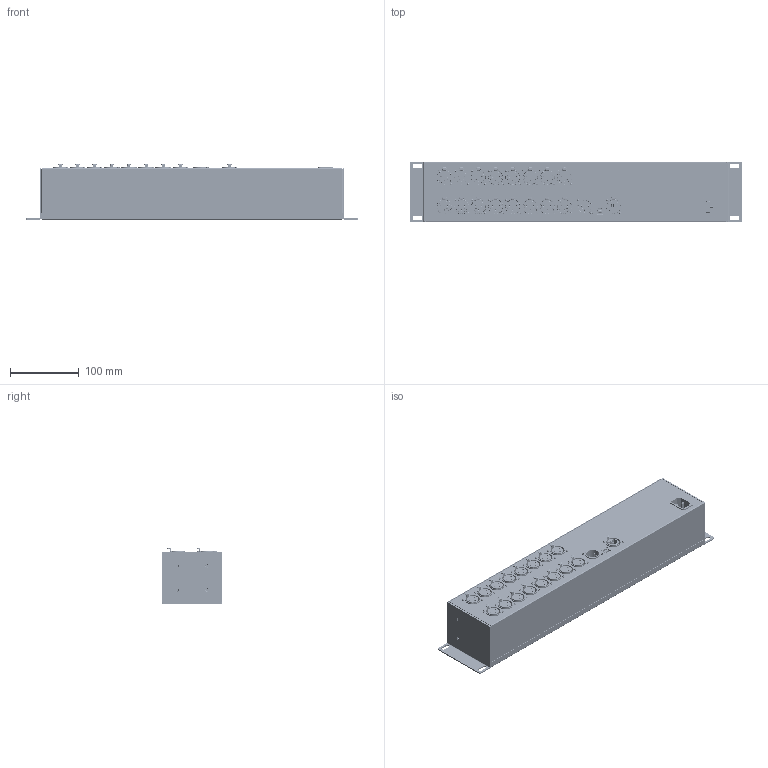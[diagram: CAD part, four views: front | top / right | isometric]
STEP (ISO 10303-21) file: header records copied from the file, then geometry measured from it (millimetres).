
FILE_DESCRIPTION(('FreeCAD Model'),'2;1');
FILE_NAME('E:/Holger/MADRIX_2019/scenes/edits/export_step/_aus_freecad/luna16_freecad_export6dd_step_with_colors.step','2019-09-11T15:28:44',('Author' ),(''),'Open CASCADE STEP processor 7.3','FreeCAD','Unknown');
FILE_SCHEMA(('AUTOMOTIVE_DESIGN { 1 0 10303 214 1 1 1 1 }'));
Length unit declared in the file: millimetre
Products named in the file (129): plug_socket_metal_tab_nurbs000; Fillet_plug_socket_ring_black; Fillet_plug_socket_black001; Fillet_plug_socket_black004; Fillet_plug_socket_black005; Fillet_plug_socket_black003; Fillet_plug_socket_black002; plug_socket_metal_tab_nurbs001; plug_socket_metal_tab_nurbs002; plug_socket_metal_tab_nurbs003; plug_socket_metal_tab_nurbs004; plug_socket_metal_ring_nurbs000; plug_socket_ring_black_nurbs001; plug_socket_ring_black_nurbs002; plug_socket_ring_black_nurbs003; plug_socket_ring_black_nurbs004; ethernet_copper_nurbs; plug_contact_copper_nurbs; Fillet_plug_contact_copper006; Fillet_plug_contact_copper007; Fillet_plug_contact_copper008; Fillet_plug_contact_copper009; Fillet_plug_contact_copper010; Cut024_screw_black002; Cut024_screw_black000; Cut024_screw_black001; Cut024_screw_black003; Cut024_screw_black004; Cut024_screw_black005; Cut024_screw_black006; plug_contact_metal_nurbs; power_plug_black_form; power_plug_metal_form; led_form; text_front_form; plug_socket_metal_tab_nurbs005; plug_socket_metal_tab_nurbs006; plug_socket_metal_tab_nurbs007; plug_socket_metal_tab_nurbs008; plug_socket_ring_black_nurbs005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
Bounding box: 484.17 x 88.09 x 81.35 mm (x, y, z)
Volume: 63699 mm3; surface area: 571645.3 mm2
Topology: 73 solids, 1399 shells, 31370 faces, 62360 edges, 44475 vertices
Faces by surface type: plane 30004, bspline 968, torus 198, cylinder 154, revolution 46
Full cylindrical faces by diameter (mm): 1.6 x80, 2 x5, 3 x36, 5 x14, 16.8 x17, 18.8 x1, 22 x1
Entity records: 1798679 total; most frequent: CARTESIAN_POINT 529075, DIRECTION 173995, LINE 110873, VECTOR 110873, ORIENTED_EDGE 97320, PCURVE 97320, DEFINITIONAL_REPRESENTATION 97320, EDGE_CURVE 58339
